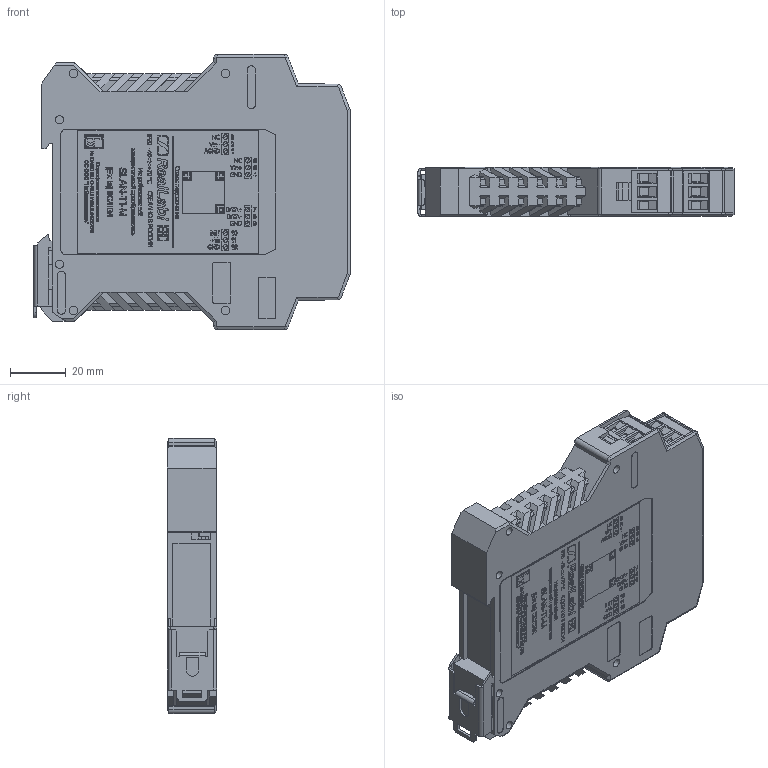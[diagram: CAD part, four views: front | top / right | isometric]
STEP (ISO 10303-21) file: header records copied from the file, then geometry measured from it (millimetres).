
FILE_DESCRIPTION(('STEP AP214'), '1');
FILE_NAME('SLAN-I-4-20-H.a3d', '', ('UNSPECIFIED'), ('UNSPECIFIED'), 'C3D Converter', 'C3D Toolkit', '');
FILE_SCHEMA(('AUTOMOTIVE_DESIGN { 1 0 10303 214 3 1 1}'));
Length unit declared in the file: millimetre
Products named in the file (1): SLAN-TI-M
Bounding box: 113.65 x 17.75 x 99 mm (x, y, z)
Volume: 66694.5 mm3; surface area: 73858.3 mm2
Topology: 1 solids, 51 shells, 7596 faces, 20869 edges, 13816 vertices
Faces by surface type: plane 4289, extrusion 2875, cylinder 408, cone 24
Full cylindrical faces by diameter (mm): 1.4 x12, 1.8 x2, 3 x16, 3.783 x12, 4 x12
Entity records: 314110 total; most frequent: CARTESIAN_POINT 71043, ORIENTED_EDGE 41630, DIRECTION 28168, EDGE_CURVE 20815, VECTOR 16868, LINE 13993, VERTEX_POINT 13816, B_SPLINE_CURVE_WITH_KNOTS 8649
